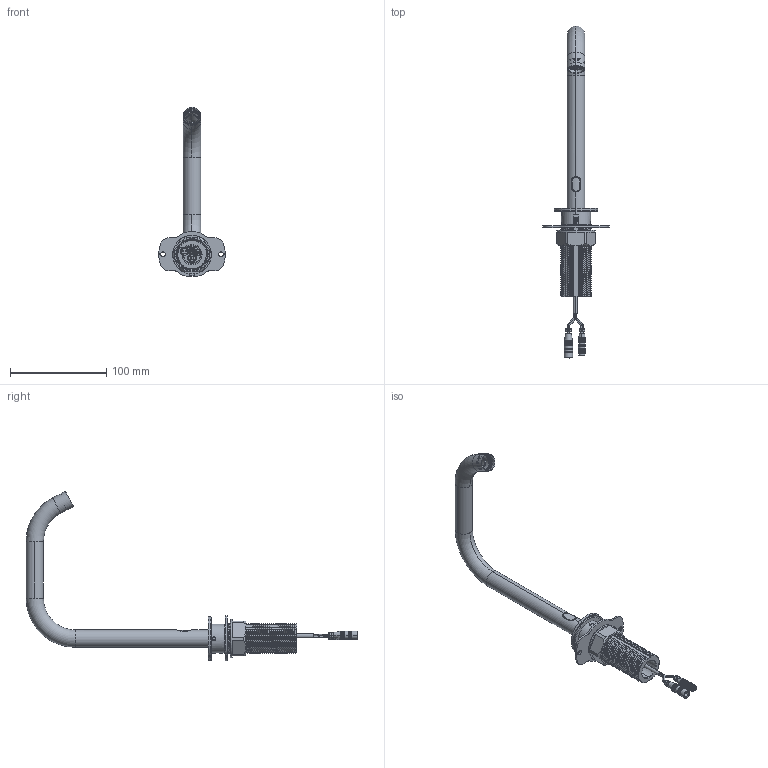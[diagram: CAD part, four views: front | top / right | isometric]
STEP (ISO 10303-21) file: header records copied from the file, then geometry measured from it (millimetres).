
FILE_DESCRIPTION (( 'STEP AP203' ), '1' );
FILE_NAME ('TSL.007-Overall Assembly.STEP', '2024-10-25T02:17:02', ( '' ), ( '' ), 'SwSTEP 2.0', 'SolidWorks 2018', '' );
FILE_SCHEMA (( 'CONFIG_CONTROL_DESIGN' ));
Length unit declared in the file: millimetre
Products named in the file (20): M4x8mm hexagon socket screws; 20 A998_20A998 BLU FORM; TSL.007-Overall Assembly; M3x3mm hexagon socket screws; 20 A999_20A999 BLU FORM; sensor_GT105; 940-Backnut-六角螺帽; Collar; 940,960,980,990 - Anti-Rotation Plate防轉板; RW202A028 20A125_1; Stem.v2; 7 spout; 940,960,980,990 - Spigot Rev; RW116A044; 20 A125_20A125_1; black; RW504A009_RW504A009; 10A091 new; 30A023_30A023_1; Resin GT105
Assembly tree (20 placements, depth 5):
  TSL.007-Overall Assembly
    Stem.v2
    Collar
    940,960,980,990 - Spigot Rev
    sensor_GT105
      30A023_30A023_1
        RW116A044
      20 A125_20A125_1
        RW202A028 20A125_1
          black
        20 A999_20A999 BLU FORM
        20 A998_20A998 BLU FORM
      Resin GT105
      RW504A009_RW504A009
      10A091 new
    M3x3mm hexagon socket screws
    M4x8mm hexagon socket screws  x2
    940-Backnut-六角螺帽
    940,960,980,990 - Anti-Rotation Plate防轉板
    7 spout
Bounding box: 68.97 x 344.46 x 175.94 mm (x, y, z)
Volume: 92978.8 mm3; surface area: 81287.6 mm2
Topology: 25 solids, 25 shells, 1674 faces, 4400 edges, 2844 vertices
Faces by surface type: bspline 542, cylinder 530, plane 501, cone 90, torus 11
Entity records: 451963 total; most frequent: CARTESIAN_POINT 415068, ORIENTED_EDGE 8596, DIRECTION 5564, EDGE_CURVE 4298, VERTEX_POINT 2776, AXIS2_PLACEMENT_3D 1896, LINE 1772, VECTOR 1772
